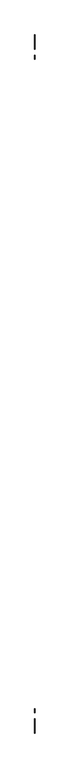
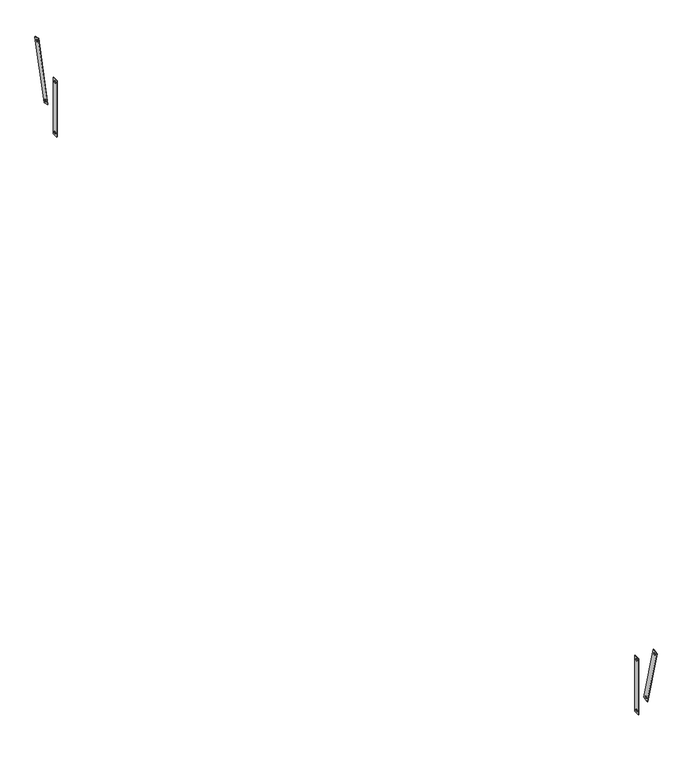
"""IFC4 building model written with IfcOpenShell, lengths in millimetres: proxy geometry, Modelos genéricos 282 : Modelos genéricos 278."""

from ifc_helpers import new_model, si_unit, point, frame, frame_2d, origin, place, context, project, spatial, polyline, circle_curve, trimmed, segment, composite_curve, outline, extrude, source, transform, mapped, element, save


def generic_models_636f55b5(model_context):
    return source(origin(), model_context, "Body", "SweptSolid", [
        extrude(outline(polyline([(5318.6238165, 2800.0), (5318.6238165, 3200.0), (5358.6238165, 3200.0), (5358.6238165, 2800.0), (5318.6238165, 2800.0)]), holes=[composite_curve([segment(trimmed(circle_curve(frame_2d((5338.6238165, 3180.0)), 7.5), [point((5346.1238165, 3180.0))], [point((5331.1238165, 3180.0))], True, "CARTESIAN"), True, "CONTINUOUS"), segment(trimmed(circle_curve(frame_2d((5338.6238165, 3180.0)), 7.5), [point((5331.1238165, 3180.0))], [point((5346.1238165, 3180.0))], True, "CARTESIAN"), True, "CONTINUOUS")], self_intersect=False), composite_curve([segment(trimmed(circle_curve(frame_2d((5338.6238165, 2820.0)), 7.5), [point((5346.1238165, 2820.0))], [point((5331.1238165, 2820.0))], True, "CARTESIAN"), True, "CONTINUOUS"), segment(trimmed(circle_curve(frame_2d((5338.6238165, 2820.0)), 7.5), [point((5331.1238165, 2820.0))], [point((5346.1238165, 2820.0))], True, "CARTESIAN"), True, "CONTINUOUS")], self_intersect=False)]), frame((-5379.5527533, 0.0, 0.0), z_axis=(1.0, 0.0, 0.0), x_axis=(0.0, 1.0, 0.0)), (0.0, 0.0, 1.0), 3.0),
        extrude(outline(polyline([(5424.7907615, 2966.5419368), (5533.4947604, 3372.2307838), (5572.1317934, 3361.878022), (5463.4277945, 2956.1891749), (5424.7907615, 2966.5419368)]), holes=[composite_curve([segment(trimmed(circle_curve(frame_2d((5547.636896, 3347.7358864)), 7.5), [point((5554.8813397, 3345.7947435))], [point((5540.3924523, 3349.6770292))], True, "CARTESIAN"), True, "CONTINUOUS"), segment(trimmed(circle_curve(frame_2d((5547.636896, 3347.7358864)), 7.5), [point((5540.3924523, 3349.6770292))], [point((5554.8813397, 3345.7947435))], True, "CARTESIAN"), True, "CONTINUOUS")], self_intersect=False), composite_curve([segment(trimmed(circle_curve(frame_2d((5449.2856589, 2980.6840724)), 7.5), [point((5456.5301026, 2978.7429295))], [point((5442.0412152, 2982.6252152))], True, "CARTESIAN"), True, "CONTINUOUS"), segment(trimmed(circle_curve(frame_2d((5449.2856589, 2980.6840724)), 7.5), [point((5442.0412152, 2982.6252152))], [point((5456.5301026, 2978.7429295))], True, "CARTESIAN"), True, "CONTINUOUS")], self_intersect=False)]), frame((-5379.5527533, 0.0, 0.0), z_axis=(1.0, 0.0, 0.0), x_axis=(0.0, 1.0, 0.0)), (0.0, 0.0, 1.0), 3.0),
        extrude(outline(polyline([(-1421.3761835, 2800.0), (-1461.3761835, 2800.0), (-1461.3761835, 3200.0), (-1421.3761835, 3200.0), (-1421.3761835, 2800.0)]), holes=[composite_curve([segment(trimmed(circle_curve(frame_2d((-1441.3761835, 3180.0)), 7.5), [point((-1448.8761835, 3180.0))], [point((-1433.8761835, 3180.0))], True, "CARTESIAN"), True, "CONTINUOUS"), segment(trimmed(circle_curve(frame_2d((-1441.3761835, 3180.0)), 7.5), [point((-1433.8761835, 3180.0))], [point((-1448.8761835, 3180.0))], True, "CARTESIAN"), True, "CONTINUOUS")], self_intersect=False), composite_curve([segment(trimmed(circle_curve(frame_2d((-1441.3761835, 2820.0)), 7.5), [point((-1448.8761835, 2820.0))], [point((-1433.8761835, 2820.0))], True, "CARTESIAN"), True, "CONTINUOUS"), segment(trimmed(circle_curve(frame_2d((-1441.3761835, 2820.0)), 7.5), [point((-1433.8761835, 2820.0))], [point((-1448.8761835, 2820.0))], True, "CARTESIAN"), True, "CONTINUOUS")], self_intersect=False)]), frame((-5379.5527533, 0.0, 0.0), z_axis=(1.0, 0.0, 0.0), x_axis=(0.0, 1.0, 0.0)), (0.0, 0.0, 1.0), 3.0),
        extrude(outline(polyline([(-1527.5431285, 2966.5419368), (-1566.1801615, 2956.1891749), (-1674.8841605, 3361.878022), (-1636.2471274, 3372.2307838), (-1527.5431285, 2966.5419368)]), holes=[composite_curve([segment(trimmed(circle_curve(frame_2d((-1650.389263, 3347.7358864)), 7.5), [point((-1657.6337067, 3345.7947435))], [point((-1643.1448193, 3349.6770292))], True, "CARTESIAN"), True, "CONTINUOUS"), segment(trimmed(circle_curve(frame_2d((-1650.389263, 3347.7358864)), 7.5), [point((-1643.1448193, 3349.6770292))], [point((-1657.6337067, 3345.7947435))], True, "CARTESIAN"), True, "CONTINUOUS")], self_intersect=False), composite_curve([segment(trimmed(circle_curve(frame_2d((-1552.0380259, 2980.6840724)), 7.5), [point((-1559.2824696, 2978.7429295))], [point((-1544.7935822, 2982.6252152))], True, "CARTESIAN"), True, "CONTINUOUS"), segment(trimmed(circle_curve(frame_2d((-1552.0380259, 2980.6840724)), 7.5), [point((-1544.7935822, 2982.6252152))], [point((-1559.2824696, 2978.7429295))], True, "CARTESIAN"), True, "CONTINUOUS")], self_intersect=False)]), frame((-5379.5527533, 0.0, 0.0), z_axis=(1.0, 0.0, 0.0), x_axis=(0.0, 1.0, 0.0)), (0.0, 0.0, 1.0), 3.0),
    ])


if __name__ == "__main__":
    model = new_model("IFC4")
    model_context = context("Model", 3, world=origin())
    ifc_project = project(units=[si_unit("LENGTHUNIT", "METRE", prefix="MILLI")], contexts=[model_context])
    site = spatial("IfcSite", under=ifc_project)
    building = spatial("IfcBuilding", under=site)
    placement = place(None, origin())
    generic_models_shape = generic_models_636f55b5(model_context)
    element("IfcBuildingElementProxy", 1, Name="Modelos genéricos 282 : Modelos genéricos 278", ObjectType="Modelos genéricos 282 : Modelos genéricos 278", at=placement, inside=building, context=model_context, shape_type="MappedRepresentation", body=[
        mapped(generic_models_shape, transform((0.0, 0.0, 0.0), x_axis=(1.0, 0.0, 0.0), y_axis=(0.0, 1.0, 0.0), z_axis=(0.0, 0.0, 1.0))),
    ])
    save(model, "model.ifc")
